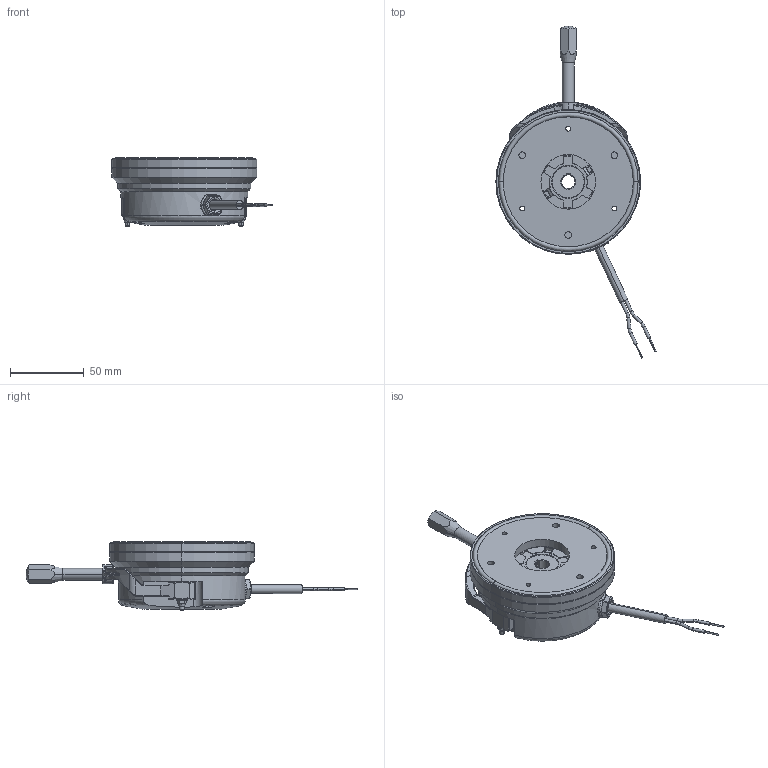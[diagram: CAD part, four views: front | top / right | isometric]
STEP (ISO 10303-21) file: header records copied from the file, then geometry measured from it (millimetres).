
FILE_DESCRIPTION (( 'STEP AP214' ), '1' );
FILE_NAME ('dr_bk_0228-hftw_mu.STEP', '2021-11-26T06:47:42', ( '' ), ( '' ), 'SwSTEP 2.0', 'SolidWorks 2019', '' );
FILE_SCHEMA (( 'AUTOMOTIVE_DESIGN' ));
Length unit declared in the file: millimetre
Products named in the file (11): 10068348_000; 10069335_000; 10069303_000; 10068345_000; 10069342_000_A 10 x 22 x 7; 10068603_000_Einbauzustand   ›164 - ›173 - ›3,5; 10069302_000; dr_bk_0228-hftw_mu; 10068347_000; 10068346_000; 10068603_000
Assembly tree (12 placements, depth 2):
  dr_bk_0228-hftw_mu
    10069303_000
    10068346_000
    10068345_000  x3
    10068603_000_Einbauzustand   ›164 - ›173 - ›3,5
    10068347_000
    10068348_000
    10069302_000
    10069335_000
    10068603_000
    10069342_000_A 10 x 22 x 7
Bounding box: 108.46 x 224.66 x 46.45 mm (x, y, z)
Volume: 243929 mm3; surface area: 92777.1 mm2
Topology: 29 solids, 29 shells, 1307 faces, 3109 edges, 1845 vertices
Faces by surface type: cylinder 513, plane 293, bspline 202, torus 136, cone 108, sphere 55
Entity records: 53637 total; most frequent: CARTESIAN_POINT 17245, ORIENTED_EDGE 5886, DIRECTION 5837, EDGE_CURVE 2943, AXIS2_PLACEMENT_3D 2426, VERTEX_POINT 1769, EDGE_LOOP 1362, CIRCLE 1352
